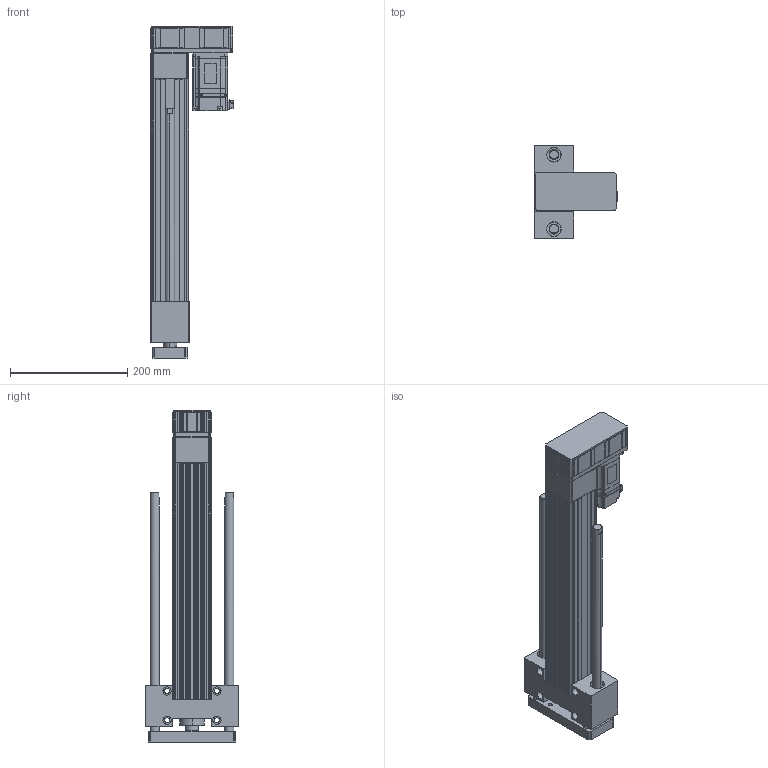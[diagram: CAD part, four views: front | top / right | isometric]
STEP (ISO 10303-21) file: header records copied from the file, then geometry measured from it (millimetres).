
FILE_DESCRIPTION (( 'STEP AP203' ), '1' );
FILE_NAME ('ANS065R-HP300-05(10)(20)-W40.STEP', '2019-03-01T09:43:56', ( 'user' ), ( '' ), 'SwSTEP 2.0', 'SolidWorks 2013', '' );
FILE_SCHEMA (( 'CONFIG_CONTROL_DESIGN' ));
Length unit declared in the file: millimetre
Products named in the file (4): ANS065R-HP300-05(10)(20)-W40; ANS065R HP300 VER2; ANS065 ROD ST300 H; sgmjv_04a_a21
Assembly tree (3 placements, depth 2):
  ANS065R-HP300-05(10)(20)-W40
    ANS065R HP300 VER2
    ANS065 ROD ST300 H
    sgmjv_04a_a21
Bounding box: 140.3 x 160 x 566 mm (x, y, z)
Volume: 2333347.7 mm3; surface area: 538739.4 mm2
Topology: 3 solids, 7 shells, 1457 faces, 3867 edges, 2498 vertices
Faces by surface type: plane 895, cylinder 452, cone 110
Entity records: 45317 total; most frequent: CARTESIAN_POINT 8114, ORIENTED_EDGE 7694, DIRECTION 7647, EDGE_CURVE 3847, LINE 2785, VECTOR 2785, VERTEX_POINT 2498, AXIS2_PLACEMENT_3D 2431
